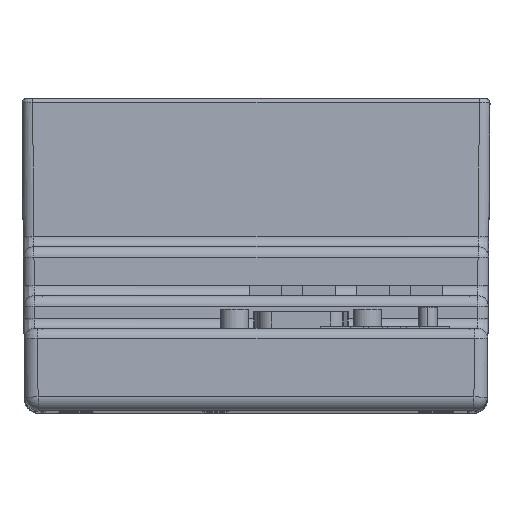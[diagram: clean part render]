
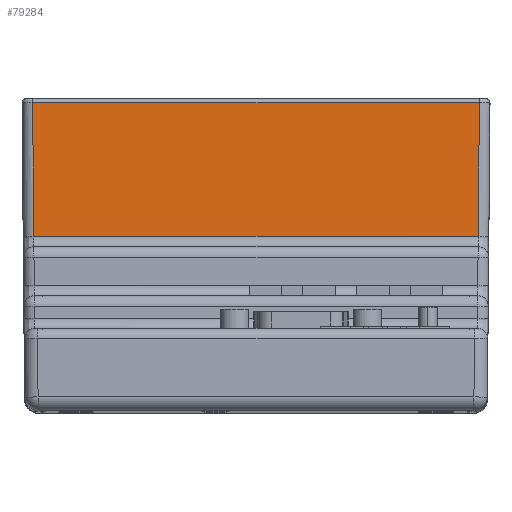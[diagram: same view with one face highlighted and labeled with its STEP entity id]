
A CAD part, top view. The second image highlights one B-rep face of the part: STEP entity #79284.
In plain terms, the highlighted planar face has unit normal (0, 0.018, 1).
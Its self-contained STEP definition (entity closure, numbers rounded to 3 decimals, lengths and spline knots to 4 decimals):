
#2617=CARTESIAN_POINT('',(-1.6555,2.2885,5.016));
#2660=DIRECTION('',(-1.,0.,0.));
#2661=VECTOR('',#2660,3.311);
#2662=CARTESIAN_POINT('',(1.6555,2.2885,5.016));
#2663=LINE('',#2662,#2661);
#2664=DIRECTION('',(0.009,1.,-0.017));
#2665=VECTOR('',#2664,0.9909);
#2666=CARTESIAN_POINT('',(1.6468,1.2978,5.0333));
#2667=LINE('',#2666,#2665);
#2668=DIRECTION('',(-1.,0.,0.));
#2669=VECTOR('',#2668,3.2937);
#2670=CARTESIAN_POINT('',(1.6468,1.2978,5.0333));
#2671=LINE('',#2670,#2669);
#2672=DIRECTION('',(0.009,-1.,0.017));
#2673=VECTOR('',#2672,0.9909);
#2674=CARTESIAN_POINT('',(-1.6555,2.2885,5.016));
#2675=LINE('',#2674,#2673);
#2780=CARTESIAN_POINT('',(1.6468,1.2978,5.0333));
#2782=CARTESIAN_POINT('',(-1.6468,1.2978,5.0333));
#73953=VERTEX_POINT('',#2780);
#74005=VERTEX_POINT('',#2782);
#74354=VERTEX_POINT('',#2617);
#74358=CARTESIAN_POINT('',(1.6555,2.2885,5.016));
#74359=VERTEX_POINT('',#74358);
#79270=CARTESIAN_POINT('',(-1.7817,0.,5.0559));
#79271=DIRECTION('',(0.,0.017,1.));
#79272=DIRECTION('',(-1.,0.,0.));
#79273=AXIS2_PLACEMENT_3D('',#79270,#79271,#79272);
#79274=PLANE('',#79273);
#79276=ORIENTED_EDGE('',*,*,#79275,.F.);
#79278=ORIENTED_EDGE('',*,*,#79277,.F.);
#79280=ORIENTED_EDGE('',*,*,#79279,.T.);
#79281=ORIENTED_EDGE('',*,*,#79261,.F.);
#79282=EDGE_LOOP('',(#79276,#79278,#79280,#79281));
#79283=FACE_OUTER_BOUND('',#79282,.F.);
#79284=ADVANCED_FACE('',(#79283),#79274,.T.);
#79261=EDGE_CURVE('',#74354,#74005,#2675,.T.);
#79275=EDGE_CURVE('',#74359,#74354,#2663,.T.);
#79277=EDGE_CURVE('',#73953,#74359,#2667,.T.);
#79279=EDGE_CURVE('',#73953,#74005,#2671,.T.);
